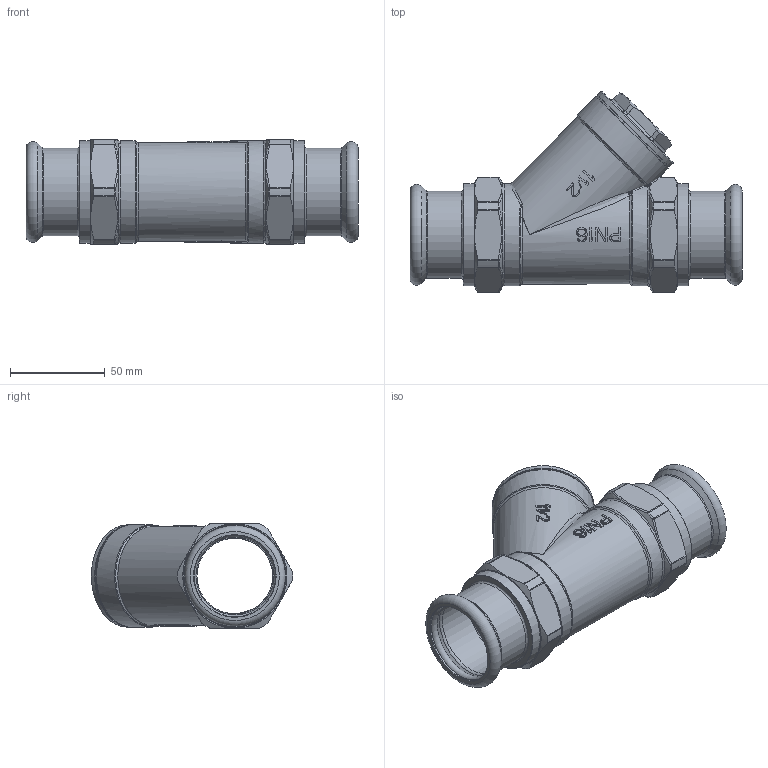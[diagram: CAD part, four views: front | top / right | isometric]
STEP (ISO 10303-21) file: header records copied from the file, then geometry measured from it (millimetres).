
FILE_DESCRIPTION((''),'2;1');
FILE_NAME('P:\Fastrack\53972_CRANE 3D\Press Fit\D298\D298-PF_42MM\D298-PF_42MM.stp','2012-02-03T15:15:59',('dcole'),(''),'Autodesk Inventor 2008','Autodesk Inventor 2008','');
FILE_SCHEMA(('AUTOMOTIVE_DESIGN { 1 0 10303 214 1 1 1 1 }'));
Length unit declared in the file: millimetre
Products named in the file (1): D298-PF_42MM
Bounding box: 175.2 x 106.19 x 55 mm (x, y, z)
Volume: 138466.5 mm3; surface area: 78122.8 mm2
Topology: 1 solids, 2 shells, 645 faces, 1606 edges, 995 vertices
Faces by surface type: bspline 253, plane 158, cylinder 113, cone 51, torus 46, sphere 24
Full cylindrical faces by diameter (mm): 30 x1, 41.2 x1, 42.35 x2, 43 x2, 44.85 x2, 45.6 x1, 46 x2, 46.38 x1, 48 x2, 48.5 x1, 48.55 x2, 53 x2, 54 x5
Entity records: 29931 total; most frequent: CARTESIAN_POINT 15229, ORIENTED_EDGE 3052, DIRECTION 2658, EDGE_CURVE 1526, AXIS2_PLACEMENT_3D 1079, VERTEX_POINT 984, EDGE_LOOP 749, CIRCLE 681
